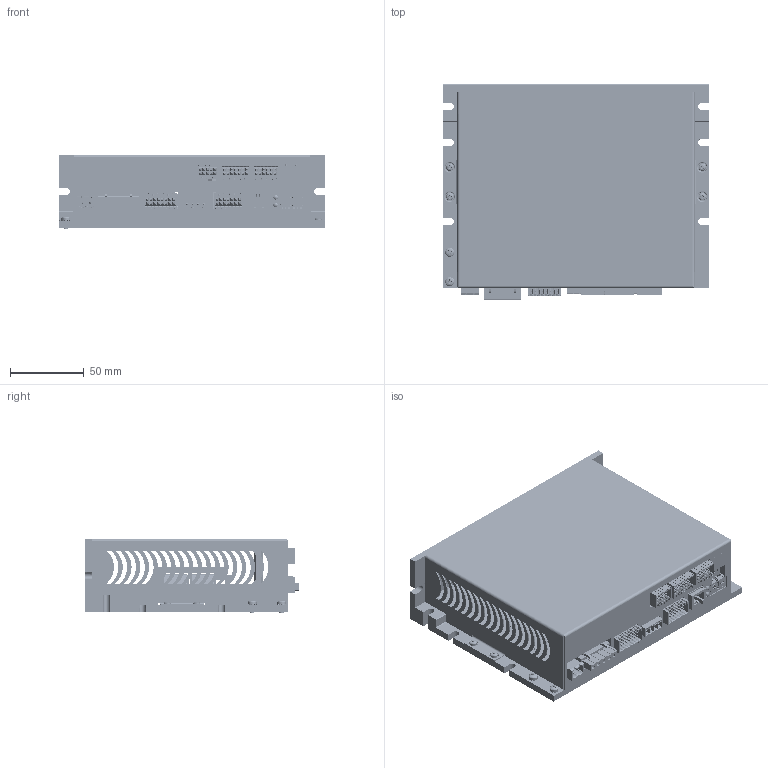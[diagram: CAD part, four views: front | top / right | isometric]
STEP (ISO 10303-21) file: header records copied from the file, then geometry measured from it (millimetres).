
FILE_DESCRIPTION(/* description */ ('Unknown'),/* implementation_level */ '2;1');
FILE_NAME(/* name */ 'AW5A9750L2G1-20',/* time_stamp */ '2021-05-10T15:00:36+02:00',/* author */ ('Unknown'),/* organization */ ('Unknown'),/* preprocessor_version */ 'ST-DEVELOPER v16.7',/* originating_system */ 'Solid Edge',/* authorisation */ 'Unknown');
FILE_SCHEMA (('AUTOMOTIVE_DESIGN {1 0 10303 214 3 1 1}'));
Products named in the file (59): SW5A9030; estruso_sw5a9030_isd04_inserti; ESTRUSO_SW5A9030_ISD04; inserto_m2_5x12mm; ad_01121_sw5a9030_isd04; hexdist_MF_M2e5 x 30mm; dentellata_M3; tcc_M2e5x05; ISD04-00_oa_0; Board; Open CASCADE STEP translator 6.8 1.1.1; CN7; 1782378; mc_1.5-4-g-3.81-p14-thr; CN3; dinkle_0156-1514; CN2A; 1927878_3D; IC_2_5-5-G-5_08-225340_ASM; IC_2_5-5-G-5_08-217880; CN4; dinkle_0156-1516l; GL400; 5151061f; J400; IMD03DIP-00; DIP100; a6e-4104; SW401; RTE0400V04; SW400; JMP500; 79202-x02lf; CN6; 955012641; Open CASCADE STEP translator 6.8 1.503.1.1; Open CASCADE STEP translator 6.8 1.503.1.2; CN5B; c-5555153-1-c-3d; CN5A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
Assembly tree (78 placements, depth 6):
  SW5A9030
    estruso_sw5a9030_isd04_inserti
      ESTRUSO_SW5A9030_ISD04
      inserto_m2_5x12mm  x3
    ad_01121_sw5a9030_isd04
    hexdist_MF_M2e5 x 30mm  x2
    dentellata_M3  x2
    tcc_M2e5x05  x12
    ISD04-00_oa_0
      Board
        Open CASCADE STEP translator 6.8 1.1.1
      CN7
        1782378
          mc_1.5-4-g-3.81-p14-thr
      CN3
        dinkle_0156-1514
      CN2A
        1927878_3D
          IC_2_5-5-G-5_08-225340_ASM
            IC_2_5-5-G-5_08-217880
      CN4
        dinkle_0156-1516l
      GL400
        5151061f
      J400
        IMD03DIP-00
          Board
          DIP100
            a6e-4104
      SW401
        RTE0400V04
      SW400
        RTE0400V04
      JMP500
        79202-x02lf  x2
      CN6
        955012641
          Open CASCADE STEP translator 6.8 1.503.1.1
          Open CASCADE STEP translator 6.8 1.503.1.2
      CN5B
        c-5555153-1-c-3d
      CN5A
        c-5555153-1-c-3d
      CN1
        CA02MHLT5.08B_1757242
          MSTBA_2_5-2-G-5_08-72070_ASM
            MSTBA_2_5-2-G-5_08-69580
    tcc_M3x06  x2
    Scatola SW5A9030 con ISD04
    ISX04-00_oa_1
      Board
        Open CASCADE STEP translator 6.8 2.1.1
      CN13
        dinkle_0156-1510_COLORATO
      LED401
        LED_HSMx-C680
      LED400
        LED_HSMx-C680
      CN11
        dinkle_0156-1514
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Bounding box: 180.7 x 146.11 x 50.4 mm (x, y, z)
Volume: 280810 mm3; surface area: 241030.5 mm2
Topology: 45 solids, 74 shells, 9653 faces, 25870 edges, 16686 vertices
Faces by surface type: plane 7309, cylinder 1811, bspline 230, cone 139, sphere 84, torus 80
Full cylindrical faces by diameter (mm): 0.406 x8, 0.434 x1, 0.457 x2, 0.762 x48, 0.8 x12, 0.889 x8, 0.9 x20, 1 x25, 1.016 x58, 1.2 x8, 1.25 x4, 1.27 x2, 1.397 x1, 1.4 x87, 1.5 x6, 1.524 x6, 1.53 x1, 1.55 x1, 1.6 x10, 1.778 x4, 2.013 x9, 2.032 x6, 2.05 x3, 2.459 x2, 2.5 x21, 2.7 x10, 2.75 x2, 2.8 x5, 3 x6, 3.048 x2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
Entity records: 300482 total; most frequent: CARTESIAN_POINT 51483, ORIENTED_EDGE 43388, DIRECTION 40886, EDGE_CURVE 21730, LINE 17436, VECTOR 17436, VERTEX_POINT 14305, AXIS2_PLACEMENT_3D 11725
